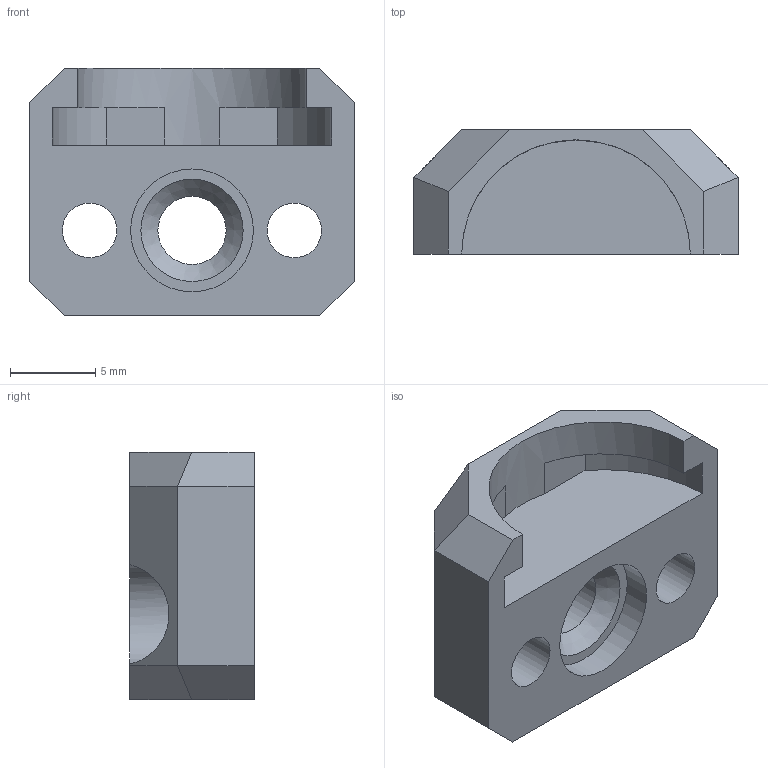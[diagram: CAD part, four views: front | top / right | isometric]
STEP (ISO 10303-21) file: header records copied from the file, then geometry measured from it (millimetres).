
FILE_DESCRIPTION(/* description */ (''),/* implementation_level */ '2;1');
FILE_NAME(/* name */ '4-48-2 Shock top one.step',/* time_stamp */ '2025-05-10T22:21:15+02:00',/* author */ (''),/* organization */ (''),/* preprocessor_version */ 'ST-DEVELOPER v20.1',/* originating_system */ 'Autodesk Translation Framework v14.4.0.0',/* authorisation */ '');
FILE_SCHEMA (('AUTOMOTIVE_DESIGN { 1 0 10303 214 3 1 1 }'));
Length unit declared in the file: millimetre
Products named in the file (1): 4-48-2 Shock top one
Bounding box: 19 x 7.3 x 14.5 mm (x, y, z)
Volume: 1068.7 mm3; surface area: 1205.9 mm2
Topology: 1 solids, 1 shells, 34 faces, 92 edges, 59 vertices
Faces by surface type: plane 22, cylinder 9, cone 3
Full cylindrical faces by diameter (mm): 3.2 x2, 4 x1, 6 x2, 7.2 x1
Entity records: 1119 total; most frequent: DIRECTION 189, CARTESIAN_POINT 186, ORIENTED_EDGE 184, EDGE_CURVE 92, LINE 65, VECTOR 65, AXIS2_PLACEMENT_3D 62, VERTEX_POINT 59
